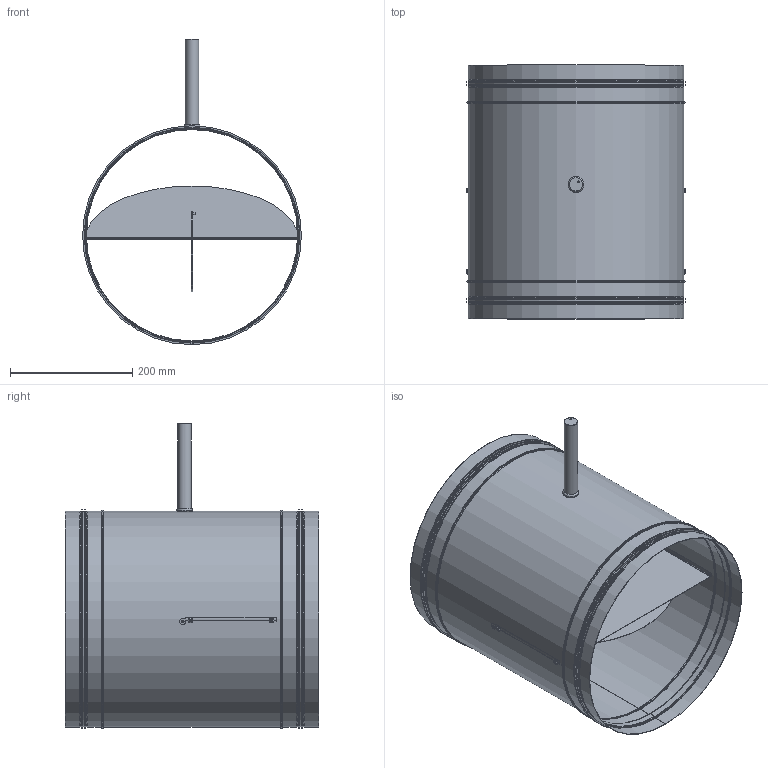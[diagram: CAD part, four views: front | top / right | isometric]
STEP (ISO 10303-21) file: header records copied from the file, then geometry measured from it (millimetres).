
FILE_DESCRIPTION(/* description */ (''),/* implementation_level */ '2;1');
FILE_NAME(/* name */ 'C:\Users\bonsen\Documents\Vault\Daten\BIM_Vorbereitung\VRK\Step Daten\233_VRK\233_355_VRK.stp',/* time_stamp */ '2022-02-03T08:46:38+01:00',/* author */ ('bonsen'),/* organization */ ('Aerotechnik E. Siegwart GmbH'),/* preprocessor_version */ 'ST-DEVELOPER v18.1',/* originating_system */ 'Autodesk Inventor 2020',/* authorisation */ '');
FILE_SCHEMA (('AUTOMOTIVE_DESIGN { 1 0 10303 214 3 1 1 }'));
Length unit declared in the file: millimetre
Products named in the file (5): VRK_80-400; Rohrkörper; Daempferplatte; Verstelleinheit; Lippengummi
Assembly tree (5 placements, depth 2):
  VRK_80-400
    Rohrkörper
    Daempferplatte
    Verstelleinheit
    Lippengummi  x2
Bounding box: 358 x 415 x 499.5 mm (x, y, z)
Volume: 530018.9 mm3; surface area: 1347513.6 mm2
Topology: 7 solids, 7 shells, 258 faces, 567 edges, 331 vertices
Faces by surface type: plane 151, cylinder 62, torus 42, bspline 2, cone 1
Full cylindrical faces by diameter (mm): 2 x5, 3 x2, 4 x2, 8 x4, 21.5 x1, 22 x1, 26 x1, 345.74 x2, 347 x2, 348 x2, 351.74 x5, 352 x6, 353 x5, 355.74 x2, 357 x2, 358 x4
Entity records: 7050 total; most frequent: DIRECTION 1314, CARTESIAN_POINT 1240, ORIENTED_EDGE 1084, EDGE_CURVE 542, AXIS2_PLACEMENT_3D 527, VERTEX_POINT 312, CIRCLE 267, EDGE_LOOP 264
